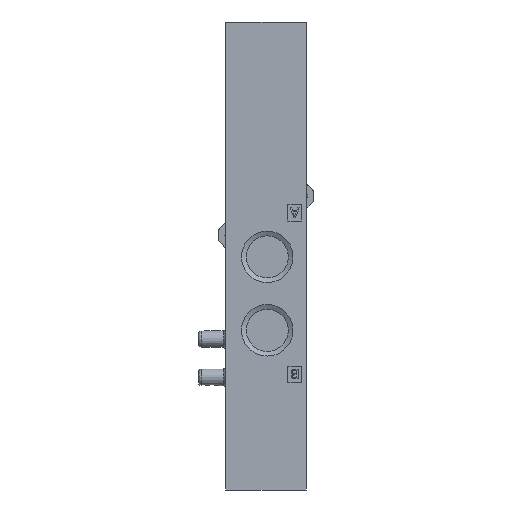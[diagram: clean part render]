
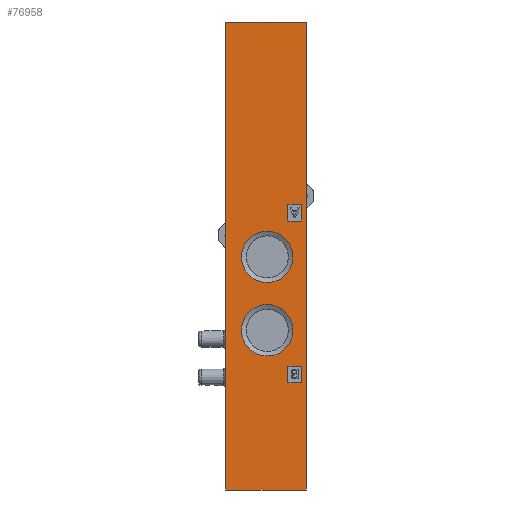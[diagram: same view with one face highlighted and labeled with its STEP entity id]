
A CAD part, front view. The second image highlights one B-rep face of the part: STEP entity #76958.
In plain terms, the highlighted planar face has unit normal (0, -1, 0).
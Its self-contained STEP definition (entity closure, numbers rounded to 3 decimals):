
#108 = CARTESIAN_POINT ( 'NONE',  ( 8.25, 0., -47.75 ) ) ;
#152 = CARTESIAN_POINT ( 'NONE',  ( -8.25, 0., -47.75 ) ) ;
#324 = ORIENTED_EDGE ( 'NONE', *, *, #31281, .F. ) ;
#1505 = AXIS2_PLACEMENT_3D ( 'NONE', #52035, #14315, #58339 ) ;
#2051 = FACE_BOUND ( 'NONE', #74578, .T. ) ;
#2081 = EDGE_CURVE ( 'NONE', #23491, #34657, #31398, .T. ) ;
#2363 = VECTOR ( 'NONE', #28256, 1000. ) ;
#3317 = VECTOR ( 'NONE', #41152, 1000. ) ;
#4696 = CARTESIAN_POINT ( 'NONE',  ( -8.25, 0., -47.75 ) ) ;
#5329 = CIRCLE ( 'NONE', #8096, 5.25 ) ;
#6281 = AXIS2_PLACEMENT_3D ( 'NONE', #47691, #9996, #54000 ) ;
#7314 = EDGE_LOOP ( 'NONE', ( #76018 ) ) ;
#7896 = ORIENTED_EDGE ( 'NONE', *, *, #54023, .T. ) ;
#7898 = CARTESIAN_POINT ( 'NONE',  ( -8.25, 0., 10.563 ) ) ;
#8096 = AXIS2_PLACEMENT_3D ( 'NONE', #27202, #71097, #33582 ) ;
#9242 = CARTESIAN_POINT ( 'NONE',  ( 4.45, 0., -22.45 ) ) ;
#9562 = CARTESIAN_POINT ( 'NONE',  ( 7.25, 0., 10.563 ) ) ;
#9996 = DIRECTION ( 'NONE',  ( 0., 1., 0. ) ) ;
#10175 = VECTOR ( 'NONE', #67957, 1000. ) ;
#11016 = CARTESIAN_POINT ( 'NONE',  ( -8.25, 0., 47.75 ) ) ;
#11717 = CARTESIAN_POINT ( 'NONE',  ( 4.45, 0., 10.563 ) ) ;
#14315 = DIRECTION ( 'NONE',  ( 0., -1., 0. ) ) ;
#14641 = VECTOR ( 'NONE', #16280, 1000. ) ;
#14770 = EDGE_CURVE ( 'NONE', #46184, #74587, #39520, .T. ) ;
#15096 = ORIENTED_EDGE ( 'NONE', *, *, #79946, .T. ) ;
#16280 = DIRECTION ( 'NONE',  ( 0., 0., -1. ) ) ;
#16576 = DIRECTION ( 'NONE',  ( 0., 0., -1. ) ) ;
#16939 = CARTESIAN_POINT ( 'NONE',  ( 4.45, 0., -25.85 ) ) ;
#17186 = DIRECTION ( 'NONE',  ( 0., 0., 1. ) ) ;
#17362 = DIRECTION ( 'NONE',  ( -1., 0., 0. ) ) ;
#18518 = EDGE_CURVE ( 'NONE', #67510, #23491, #51656, .T. ) ;
#18626 = VERTEX_POINT ( 'NONE', #9242 ) ;
#18642 = VECTOR ( 'NONE', #53699, 1000. ) ;
#18753 = FACE_BOUND ( 'NONE', #56337, .T. ) ;
#19445 = LINE ( 'NONE', #11016, #50920 ) ;
#20311 = ORIENTED_EDGE ( 'NONE', *, *, #33824, .F. ) ;
#20754 = VERTEX_POINT ( 'NONE', #61951 ) ;
#21837 = CARTESIAN_POINT ( 'NONE',  ( 7.25, 0., -47.75 ) ) ;
#21939 = CARTESIAN_POINT ( 'NONE',  ( -8.25, 0., -47.75 ) ) ;
#22376 = ORIENTED_EDGE ( 'NONE', *, *, #2081, .F. ) ;
#22892 = CARTESIAN_POINT ( 'NONE',  ( 4.45, 0., -47.75 ) ) ;
#23379 = VECTOR ( 'NONE', #72158, 1000. ) ;
#23491 = VERTEX_POINT ( 'NONE', #11717 ) ;
#26713 = ORIENTED_EDGE ( 'NONE', *, *, #70587, .F. ) ;
#26805 = ORIENTED_EDGE ( 'NONE', *, *, #14770, .F. ) ;
#26889 = ORIENTED_EDGE ( 'NONE', *, *, #47563, .F. ) ;
#27202 = CARTESIAN_POINT ( 'NONE',  ( 0.25, 0., -0.15 ) ) ;
#28182 = VERTEX_POINT ( 'NONE', #44063 ) ;
#28256 = DIRECTION ( 'NONE',  ( 0., 0., 1. ) ) ;
#28623 = CARTESIAN_POINT ( 'NONE',  ( -8.25, 0., -25.85 ) ) ;
#31281 = EDGE_CURVE ( 'NONE', #74587, #20754, #66746, .T. ) ;
#31391 = VECTOR ( 'NONE', #42137, 1000. ) ;
#31398 = LINE ( 'NONE', #53950, #14641 ) ;
#32017 = VERTEX_POINT ( 'NONE', #43153 ) ;
#33222 = DIRECTION ( 'NONE',  ( -1., 0., 0. ) ) ;
#33582 = DIRECTION ( 'NONE',  ( 1., 0., 0. ) ) ;
#33824 = EDGE_CURVE ( 'NONE', #34657, #69106, #40199, .T. ) ;
#34657 = VERTEX_POINT ( 'NONE', #59338 ) ;
#34831 = CARTESIAN_POINT ( 'NONE',  ( 8.25, 0., -47.75 ) ) ;
#35026 = DIRECTION ( 'NONE',  ( 1., 0., 0. ) ) ;
#35545 = FACE_BOUND ( 'NONE', #53430, .T. ) ;
#37806 = LINE ( 'NONE', #21939, #2363 ) ;
#38001 = ORIENTED_EDGE ( 'NONE', *, *, #75384, .F. ) ;
#39520 = LINE ( 'NONE', #28623, #70824 ) ;
#39639 = VERTEX_POINT ( 'NONE', #108 ) ;
#40199 = LINE ( 'NONE', #65864, #23379 ) ;
#41152 = DIRECTION ( 'NONE',  ( 0., 0., 1. ) ) ;
#42137 = DIRECTION ( 'NONE',  ( -1., 0., 0. ) ) ;
#43153 = CARTESIAN_POINT ( 'NONE',  ( 5.5, 0., -15.15 ) ) ;
#44063 = CARTESIAN_POINT ( 'NONE',  ( -8.25, 0., 47.75 ) ) ;
#44497 = LINE ( 'NONE', #22892, #73835 ) ;
#46184 = VERTEX_POINT ( 'NONE', #16939 ) ;
#47563 = EDGE_CURVE ( 'NONE', #20754, #18626, #58428, .T. ) ;
#47691 = CARTESIAN_POINT ( 'NONE',  ( -8.25, 0., -47.75 ) ) ;
#50920 = VECTOR ( 'NONE', #17362, 1000. ) ;
#51506 = LINE ( 'NONE', #34831, #3317 ) ;
#51656 = LINE ( 'NONE', #7898, #68262 ) ;
#52035 = CARTESIAN_POINT ( 'NONE',  ( 0.25, 0., -15.15 ) ) ;
#52227 = FACE_OUTER_BOUND ( 'NONE', #56148, .T. ) ;
#53430 = EDGE_LOOP ( 'NONE', ( #26805, #74998, #26889, #324 ) ) ;
#53660 = VERTEX_POINT ( 'NONE', #152 ) ;
#53699 = DIRECTION ( 'NONE',  ( 0., 0., 1. ) ) ;
#53950 = CARTESIAN_POINT ( 'NONE',  ( 4.45, 0., -47.75 ) ) ;
#54000 = DIRECTION ( 'NONE',  ( -1., 0., 0. ) ) ;
#54023 = EDGE_CURVE ( 'NONE', #39639, #74105, #51506, .T. ) ;
#55730 = ORIENTED_EDGE ( 'NONE', *, *, #58618, .F. ) ;
#56148 = EDGE_LOOP ( 'NONE', ( #7896, #15096, #26713, #57884 ) ) ;
#56190 = CARTESIAN_POINT ( 'NONE',  ( 8.25, 0., 47.75 ) ) ;
#56337 = EDGE_LOOP ( 'NONE', ( #20311, #22376, #72682, #38001 ) ) ;
#57884 = ORIENTED_EDGE ( 'NONE', *, *, #67086, .F. ) ;
#58339 = DIRECTION ( 'NONE',  ( 1., 0., 0. ) ) ;
#58428 = LINE ( 'NONE', #61648, #10175 ) ;
#58618 = EDGE_CURVE ( 'NONE', #75181, #75181, #5329, .T. ) ;
#59338 = CARTESIAN_POINT ( 'NONE',  ( 4.45, 0., 7.163 ) ) ;
#59697 = VECTOR ( 'NONE', #17186, 1000. ) ;
#60028 = PLANE ( 'NONE',  #6281 ) ;
#61648 = CARTESIAN_POINT ( 'NONE',  ( -8.25, 0., -22.45 ) ) ;
#61951 = CARTESIAN_POINT ( 'NONE',  ( 7.25, 0., -22.45 ) ) ;
#62678 = CARTESIAN_POINT ( 'NONE',  ( 7.25, 0., 7.163 ) ) ;
#62910 = CARTESIAN_POINT ( 'NONE',  ( 7.25, 0., -25.85 ) ) ;
#63375 = EDGE_CURVE ( 'NONE', #18626, #46184, #44497, .T. ) ;
#64779 = LINE ( 'NONE', #4696, #31391 ) ;
#65864 = CARTESIAN_POINT ( 'NONE',  ( -8.25, 0., 7.163 ) ) ;
#66746 = LINE ( 'NONE', #21837, #18642 ) ;
#67086 = EDGE_CURVE ( 'NONE', #39639, #53660, #64779, .T. ) ;
#67510 = VERTEX_POINT ( 'NONE', #9562 ) ;
#67957 = DIRECTION ( 'NONE',  ( -1., 0., 0. ) ) ;
#68262 = VECTOR ( 'NONE', #33222, 1000. ) ;
#68814 = FACE_BOUND ( 'NONE', #7314, .T. ) ;
#69106 = VERTEX_POINT ( 'NONE', #62678 ) ;
#70587 = EDGE_CURVE ( 'NONE', #53660, #28182, #37806, .T. ) ;
#70824 = VECTOR ( 'NONE', #35026, 1000. ) ;
#71097 = DIRECTION ( 'NONE',  ( 0., -1., 0. ) ) ;
#71559 = EDGE_CURVE ( 'NONE', #32017, #32017, #77622, .T. ) ;
#72158 = DIRECTION ( 'NONE',  ( 1., 0., 0. ) ) ;
#72682 = ORIENTED_EDGE ( 'NONE', *, *, #18518, .F. ) ;
#73438 = CARTESIAN_POINT ( 'NONE',  ( 7.25, 0., -47.75 ) ) ;
#73835 = VECTOR ( 'NONE', #16576, 1000. ) ;
#74105 = VERTEX_POINT ( 'NONE', #56190 ) ;
#74578 = EDGE_LOOP ( 'NONE', ( #55730 ) ) ;
#74587 = VERTEX_POINT ( 'NONE', #62910 ) ;
#74998 = ORIENTED_EDGE ( 'NONE', *, *, #63375, .F. ) ;
#75181 = VERTEX_POINT ( 'NONE', #80096 ) ;
#75384 = EDGE_CURVE ( 'NONE', #69106, #67510, #78307, .T. ) ;
#76018 = ORIENTED_EDGE ( 'NONE', *, *, #71559, .F. ) ;
#76958 = ADVANCED_FACE ( 'NONE', ( #68814, #2051, #52227, #18753, #35545 ), #60028, .F. ) ;
#77622 = CIRCLE ( 'NONE', #1505, 5.25 ) ;
#78307 = LINE ( 'NONE', #73438, #59697 ) ;
#79946 = EDGE_CURVE ( 'NONE', #74105, #28182, #19445, .T. ) ;
#80096 = CARTESIAN_POINT ( 'NONE',  ( 5.5, 0., -0.15 ) ) ;
